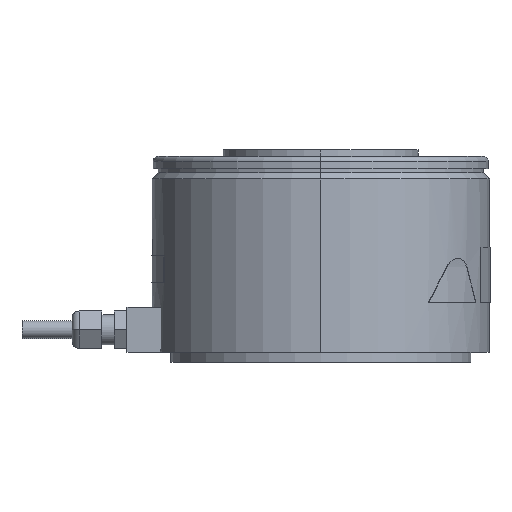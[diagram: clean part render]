
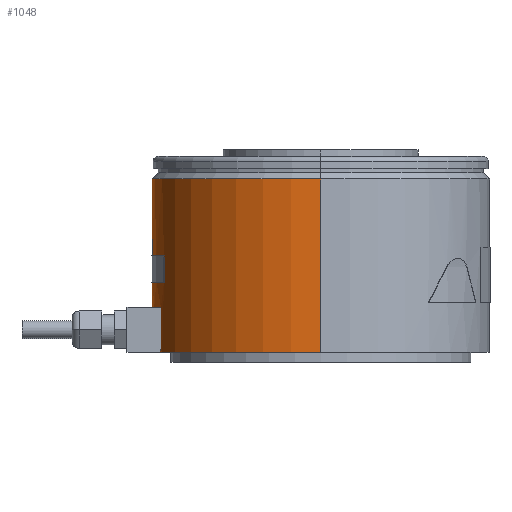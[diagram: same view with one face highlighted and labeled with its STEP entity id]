
A CAD part, left-side view. The second image highlights one B-rep face of the part: STEP entity #1048.
In plain terms, the highlighted cylindrical face has radius 67.5 mm (diameter 135 mm), a partial arc.
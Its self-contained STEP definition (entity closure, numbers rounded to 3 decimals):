
#1023 = VERTEX_POINT ( 'NONE', #4133 ) ;
#1025 = EDGE_CURVE ( 'NONE', #1026, #1023, #4132, .T. ) ;
#1026 = VERTEX_POINT ( 'NONE', #4127 ) ;
#1035 = VERTEX_POINT ( 'NONE', #4108 ) ;
#1036 = ORIENTED_EDGE ( 'NONE', *, *, #1037, .F. ) ;
#1037 = EDGE_CURVE ( 'NONE', #1038, #1118, #4169, .T. ) ;
#1038 = VERTEX_POINT ( 'NONE', #4164 ) ;
#1039 = ORIENTED_EDGE ( 'NONE', *, *, #1040, .F. ) ;
#1040 = EDGE_CURVE ( 'NONE', #1041, #1038, #4163, .T. ) ;
#1041 = VERTEX_POINT ( 'NONE', #4159 ) ;
#1042 = ORIENTED_EDGE ( 'NONE', *, *, #1097, .T. ) ;
#1048 = ADVANCED_FACE ( 'NONE', ( #4148, #4147, #4146 ), #4145, .T. ) ;
#1049 = EDGE_LOOP ( 'NONE', ( #1050, #1054, #1057, #1113 ) ) ;
#1050 = ORIENTED_EDGE ( 'NONE', *, *, #1051, .T. ) ;
#1051 = EDGE_CURVE ( 'NONE', #1052, #1053, #4139, .T. ) ;
#1052 = VERTEX_POINT ( 'NONE', #4198 ) ;
#1053 = VERTEX_POINT ( 'NONE', #4197 ) ;
#1054 = ORIENTED_EDGE ( 'NONE', *, *, #1055, .T. ) ;
#1055 = EDGE_CURVE ( 'NONE', #1053, #1056, #4196, .T. ) ;
#1056 = VERTEX_POINT ( 'NONE', #4192 ) ;
#1057 = ORIENTED_EDGE ( 'NONE', *, *, #1111, .T. ) ;
#1097 = EDGE_CURVE ( 'NONE', #1041, #1035, #4252, .T. ) ;
#1098 = EDGE_LOOP ( 'NONE', ( #1099, #1100, #1103, #1106 ) ) ;
#1099 = ORIENTED_EDGE ( 'NONE', *, *, #1025, .T. ) ;
#1100 = ORIENTED_EDGE ( 'NONE', *, *, #1101, .T. ) ;
#1101 = EDGE_CURVE ( 'NONE', #1023, #1102, #4247, .T. ) ;
#1102 = VERTEX_POINT ( 'NONE', #4243 ) ;
#1103 = ORIENTED_EDGE ( 'NONE', *, *, #1104, .F. ) ;
#1104 = EDGE_CURVE ( 'NONE', #1105, #1102, #4242, .T. ) ;
#1105 = VERTEX_POINT ( 'NONE', #4237 ) ;
#1106 = ORIENTED_EDGE ( 'NONE', *, *, #1107, .F. ) ;
#1107 = EDGE_CURVE ( 'NONE', #1026, #1105, #4236, .T. ) ;
#1111 = EDGE_CURVE ( 'NONE', #1056, #1112, #4285, .T. ) ;
#1112 = VERTEX_POINT ( 'NONE', #4280 ) ;
#1113 = ORIENTED_EDGE ( 'NONE', *, *, #1114, .T. ) ;
#1114 = EDGE_CURVE ( 'NONE', #1112, #1052, #4279, .T. ) ;
#1115 = EDGE_LOOP ( 'NONE', ( #1116, #1036, #1039, #1042 ) ) ;
#1116 = ORIENTED_EDGE ( 'NONE', *, *, #1117, .F. ) ;
#1117 = EDGE_CURVE ( 'NONE', #1118, #1035, #4275, .T. ) ;
#1118 = VERTEX_POINT ( 'NONE', #4271 ) ;
#4108 = CARTESIAN_POINT ( 'NONE',  ( -21.75, 63.9, 22. ) ) ;
#4127 = CARTESIAN_POINT ( 'NONE',  ( -67.5, 0., 73.3 ) ) ;
#4128 = DIRECTION ( 'NONE',  ( -1., 0., 0. ) ) ;
#4129 = DIRECTION ( 'NONE',  ( 0., 0., -1. ) ) ;
#4130 = CARTESIAN_POINT ( 'NONE',  ( 0., 0., 73.3 ) ) ;
#4131 = AXIS2_PLACEMENT_3D ( 'NONE', #4130, #4129, #4128 ) ;
#4132 = CIRCLE ( 'NONE', #4131, 67.5 ) ;
#4133 = CARTESIAN_POINT ( 'NONE',  ( 67.5, 0., 73.3 ) ) ;
#4138 = AXIS2_PLACEMENT_3D ( 'NONE', #4144, #4200, #4199 ) ;
#4139 = CIRCLE ( 'NONE', #4138, 67.5 ) ;
#4140 = DIRECTION ( 'NONE',  ( -1., 0., 0. ) ) ;
#4141 = DIRECTION ( 'NONE',  ( 0., 0., -1. ) ) ;
#4142 = CARTESIAN_POINT ( 'NONE',  ( 0., 0., -59.236 ) ) ;
#4143 = AXIS2_PLACEMENT_3D ( 'NONE', #4142, #4141, #4140 ) ;
#4144 = CARTESIAN_POINT ( 'NONE',  ( 0., 0., 42.5 ) ) ;
#4145 = CYLINDRICAL_SURFACE ( 'NONE', #4143, 67.5 ) ;
#4146 = FACE_OUTER_BOUND ( 'NONE', #1098, .T. ) ;
#4147 = FACE_BOUND ( 'NONE', #1115, .T. ) ;
#4148 = FACE_BOUND ( 'NONE', #1049, .T. ) ;
#4159 = CARTESIAN_POINT ( 'NONE',  ( 21.75, 63.9, 22. ) ) ;
#4160 = DIRECTION ( 'NONE',  ( 0., 0., -1. ) ) ;
#4161 = VECTOR ( 'NONE', #4160, 1000. ) ;
#4162 = CARTESIAN_POINT ( 'NONE',  ( 21.75, 63.9, -59.236 ) ) ;
#4163 = LINE ( 'NONE', #4162, #4161 ) ;
#4164 = CARTESIAN_POINT ( 'NONE',  ( 21.75, 63.9, 5. ) ) ;
#4165 = DIRECTION ( 'NONE',  ( 0., 1., 0. ) ) ;
#4166 = DIRECTION ( 'NONE',  ( 0., 0., 1. ) ) ;
#4167 = CARTESIAN_POINT ( 'NONE',  ( 0., 0., 5. ) ) ;
#4168 = AXIS2_PLACEMENT_3D ( 'NONE', #4167, #4166, #4165 ) ;
#4169 = CIRCLE ( 'NONE', #4168, 67.5 ) ;
#4192 = CARTESIAN_POINT ( 'NONE',  ( -25., 62.7, 32. ) ) ;
#4193 = DIRECTION ( 'NONE',  ( 0., 0., -1. ) ) ;
#4194 = VECTOR ( 'NONE', #4193, 1000. ) ;
#4195 = CARTESIAN_POINT ( 'NONE',  ( -25., 62.7, -59.236 ) ) ;
#4196 = LINE ( 'NONE', #4195, #4194 ) ;
#4197 = CARTESIAN_POINT ( 'NONE',  ( -25., 62.7, 42.5 ) ) ;
#4198 = CARTESIAN_POINT ( 'NONE',  ( 25., 62.7, 42.5 ) ) ;
#4199 = DIRECTION ( 'NONE',  ( -1., 0., 0. ) ) ;
#4200 = DIRECTION ( 'NONE',  ( 0., 0., 1. ) ) ;
#4236 = LINE ( 'NONE', #4295, #4294 ) ;
#4237 = CARTESIAN_POINT ( 'NONE',  ( -67.5, 0., 4. ) ) ;
#4238 = DIRECTION ( 'NONE',  ( -1., 0., 0. ) ) ;
#4239 = DIRECTION ( 'NONE',  ( 0., 0., -1. ) ) ;
#4240 = CARTESIAN_POINT ( 'NONE',  ( 0., 0., 4. ) ) ;
#4241 = AXIS2_PLACEMENT_3D ( 'NONE', #4240, #4239, #4238 ) ;
#4242 = CIRCLE ( 'NONE', #4241, 67.5 ) ;
#4243 = CARTESIAN_POINT ( 'NONE',  ( 67.5, 0., 4. ) ) ;
#4244 = DIRECTION ( 'NONE',  ( 0., 0., -1. ) ) ;
#4245 = VECTOR ( 'NONE', #4244, 1000. ) ;
#4246 = CARTESIAN_POINT ( 'NONE',  ( 67.5, 0., -59.236 ) ) ;
#4247 = LINE ( 'NONE', #4246, #4245 ) ;
#4248 = DIRECTION ( 'NONE',  ( 0., 1., 0. ) ) ;
#4249 = DIRECTION ( 'NONE',  ( 0., 0., 1. ) ) ;
#4250 = CARTESIAN_POINT ( 'NONE',  ( 0., 0., 22. ) ) ;
#4251 = AXIS2_PLACEMENT_3D ( 'NONE', #4250, #4249, #4248 ) ;
#4252 = CIRCLE ( 'NONE', #4251, 67.5 ) ;
#4271 = CARTESIAN_POINT ( 'NONE',  ( -21.75, 63.9, 5. ) ) ;
#4272 = DIRECTION ( 'NONE',  ( 0., 0., 1. ) ) ;
#4273 = VECTOR ( 'NONE', #4272, 1000. ) ;
#4274 = CARTESIAN_POINT ( 'NONE',  ( -21.75, 63.9, -59.236 ) ) ;
#4275 = LINE ( 'NONE', #4274, #4273 ) ;
#4276 = DIRECTION ( 'NONE',  ( 0., 0., 1. ) ) ;
#4277 = VECTOR ( 'NONE', #4276, 1000. ) ;
#4278 = CARTESIAN_POINT ( 'NONE',  ( 25., 62.7, -59.236 ) ) ;
#4279 = LINE ( 'NONE', #4278, #4277 ) ;
#4280 = CARTESIAN_POINT ( 'NONE',  ( 25., 62.7, 32. ) ) ;
#4281 = DIRECTION ( 'NONE',  ( 1., 0., 0. ) ) ;
#4282 = DIRECTION ( 'NONE',  ( 0., 0., -1. ) ) ;
#4283 = CARTESIAN_POINT ( 'NONE',  ( 0., 0., 32. ) ) ;
#4284 = AXIS2_PLACEMENT_3D ( 'NONE', #4283, #4282, #4281 ) ;
#4285 = CIRCLE ( 'NONE', #4284, 67.5 ) ;
#4293 = DIRECTION ( 'NONE',  ( 0., 0., -1. ) ) ;
#4294 = VECTOR ( 'NONE', #4293, 1000. ) ;
#4295 = CARTESIAN_POINT ( 'NONE',  ( -67.5, 0., -59.236 ) ) ;
